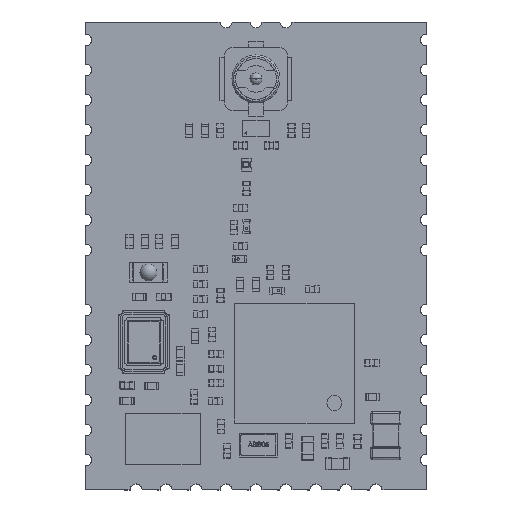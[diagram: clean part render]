
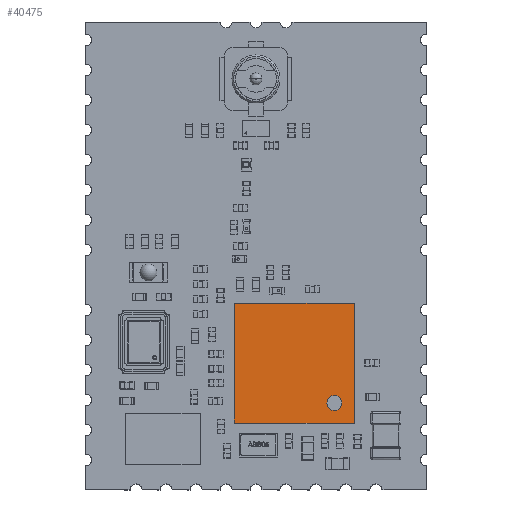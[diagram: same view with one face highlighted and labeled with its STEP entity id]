
A CAD part, top view. The second image highlights one B-rep face of the part: STEP entity #40475.
In plain terms, the highlighted planar face has unit normal (0, 0, 1).
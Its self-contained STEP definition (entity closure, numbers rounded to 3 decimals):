
#40411 = VERTEX_POINT('',#40412);
#40412 = CARTESIAN_POINT('',(0.,0.,0.6));
#40427 = VERTEX_POINT('',#40428);
#40428 = CARTESIAN_POINT('',(0.,5.,0.6));
#40434 = EDGE_CURVE('',#40411,#40427,#40435,.T.);
#40435 = LINE('',#40436,#40437);
#40436 = CARTESIAN_POINT('',(0.,0.,0.6));
#40437 = VECTOR('',#40438,1.);
#40438 = DIRECTION('',(0.,1.,0.));
#40457 = EDGE_CURVE('',#40411,#40458,#40460,.T.);
#40458 = VERTEX_POINT('',#40459);
#40459 = CARTESIAN_POINT('',(5.,0.,0.6));
#40460 = LINE('',#40461,#40462);
#40461 = CARTESIAN_POINT('',(0.,0.,0.6));
#40462 = VECTOR('',#40463,1.);
#40463 = DIRECTION('',(1.,0.,0.));
#40475 = ADVANCED_FACE('',(#40476,#40494),#40505,.T.);
#40476 = FACE_BOUND('',#40477,.T.);
#40477 = EDGE_LOOP('',(#40478,#40479,#40480,#40488));
#40478 = ORIENTED_EDGE('',*,*,#40434,.F.);
#40479 = ORIENTED_EDGE('',*,*,#40457,.T.);
#40480 = ORIENTED_EDGE('',*,*,#40481,.T.);
#40481 = EDGE_CURVE('',#40458,#40482,#40484,.T.);
#40482 = VERTEX_POINT('',#40483);
#40483 = CARTESIAN_POINT('',(5.,5.,0.6));
#40484 = LINE('',#40485,#40486);
#40485 = CARTESIAN_POINT('',(5.,0.,0.6));
#40486 = VECTOR('',#40487,1.);
#40487 = DIRECTION('',(0.,1.,0.));
#40488 = ORIENTED_EDGE('',*,*,#40489,.F.);
#40489 = EDGE_CURVE('',#40427,#40482,#40490,.T.);
#40490 = LINE('',#40491,#40492);
#40491 = CARTESIAN_POINT('',(0.,5.,0.6));
#40492 = VECTOR('',#40493,1.);
#40493 = DIRECTION('',(1.,0.,0.));
#40494 = FACE_BOUND('',#40495,.T.);
#40495 = EDGE_LOOP('',(#40496));
#40496 = ORIENTED_EDGE('',*,*,#40497,.F.);
#40497 = EDGE_CURVE('',#40498,#40498,#40500,.T.);
#40498 = VERTEX_POINT('',#40499);
#40499 = CARTESIAN_POINT('',(1.146,4.167,0.6));
#40500 = CIRCLE('',#40501,0.313);
#40501 = AXIS2_PLACEMENT_3D('',#40502,#40503,#40504);
#40502 = CARTESIAN_POINT('',(0.833,4.167,0.6));
#40503 = DIRECTION('',(0.,0.,1.));
#40504 = DIRECTION('',(1.,0.,0.));
#40505 = PLANE('',#40506);
#40506 = AXIS2_PLACEMENT_3D('',#40507,#40508,#40509);
#40507 = CARTESIAN_POINT('',(0.,0.,0.6));
#40508 = DIRECTION('',(0.,0.,1.));
#40509 = DIRECTION('',(1.,0.,0.));
